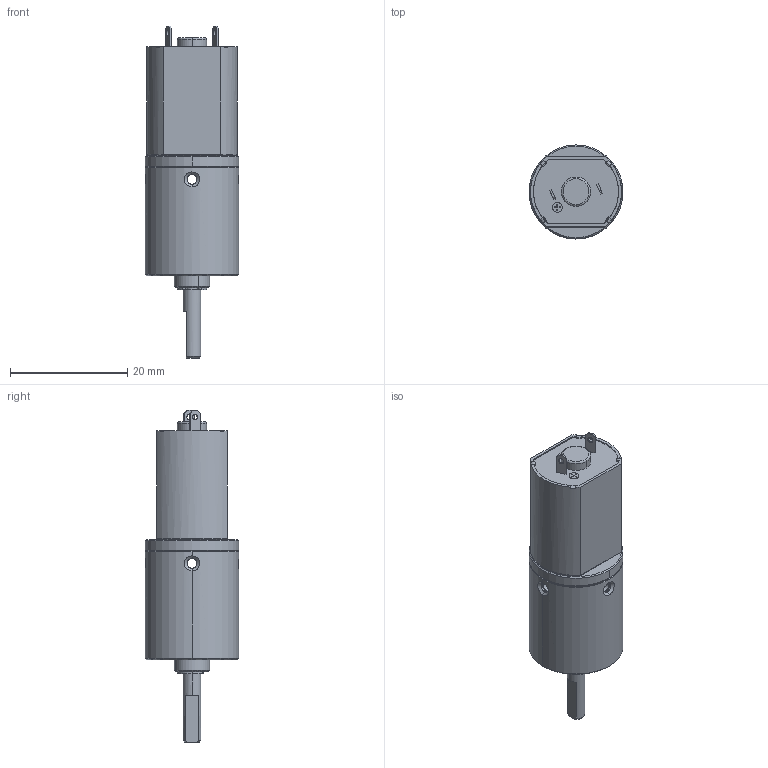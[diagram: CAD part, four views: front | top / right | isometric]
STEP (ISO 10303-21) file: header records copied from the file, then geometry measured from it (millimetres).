
FILE_DESCRIPTION (( 'STEP AP214' ), '1' );
FILE_NAME ('GA16Y-030.STEP', '2023-12-05T09:10:35', ( '' ), ( '' ), 'SwSTEP 2.0', 'SolidWorks 2021', '' );
FILE_SCHEMA (( 'AUTOMOTIVE_DESIGN' ));
Length unit declared in the file: millimetre
Products named in the file (16): 漪蚐粣創1; 三级行星轮1; 媼撰俴陎謫1; 媼撰俴陎殤1; 内齿圈1; 菜え1; GA16Y-030; 珨撰俴陎謫1; GA162; 怀堤俴陎殤1; 怀堤粣1; 蟀諉啣; れ祭喘1; 縐銅1; 珨撰俴陎殤1; GA163
Assembly tree (21 placements, depth 2):
  GA16Y-030
    内齿圈1
    怀堤俴陎殤1
    漪蚐粣創1
    怀堤粣1
    縐銅1
    三级行星轮1  x3
    媼撰俴陎殤1
    媼撰俴陎謫1  x3
    珨撰俴陎殤1
    珨撰俴陎謫1  x3
    菜え1
    れ祭喘1
    蟀諉啣
    GA162
    GA163
Bounding box: 16 x 16 x 56.6 mm (x, y, z)
Volume: 3859.4 mm3; surface area: 8499.9 mm2
Topology: 25 solids, 25 shells, 2855 faces, 8125 edges, 5374 vertices
Faces by surface type: bspline 1254, cylinder 842, plane 488, cone 267, torus 4
Entity records: 108125 total; most frequent: CARTESIAN_POINT 50414, ORIENTED_EDGE 11374, DIRECTION 7406, EDGE_CURVE 5687, VERTEX_POINT 3754, AXIS2_PLACEMENT_3D 2638, B_SPLINE_CURVE_WITH_KNOTS 2146, LINE 2130
